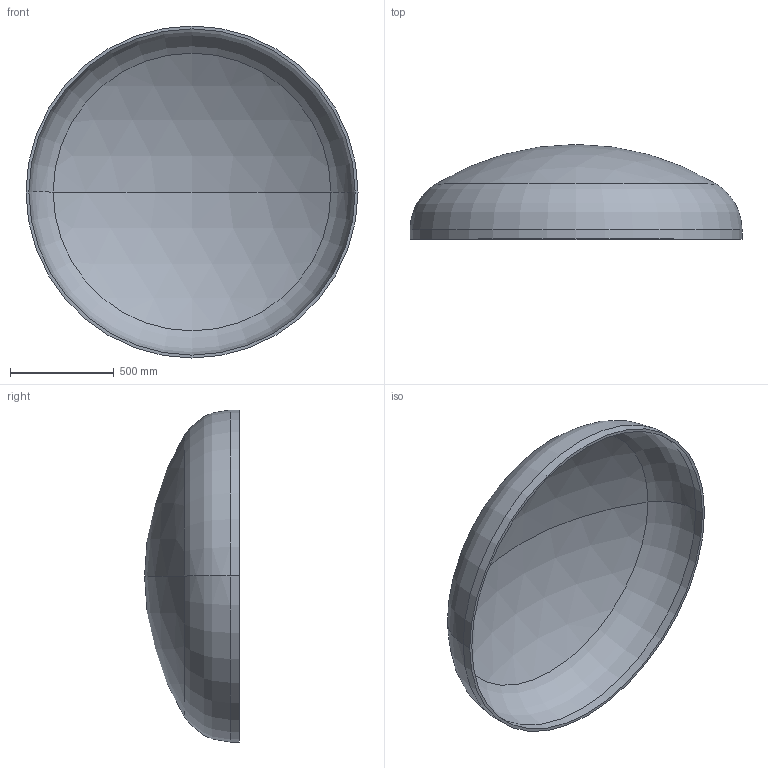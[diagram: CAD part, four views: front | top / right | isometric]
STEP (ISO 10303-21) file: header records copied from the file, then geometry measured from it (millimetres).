
FILE_DESCRIPTION (( 'STEP AP203' ), '1' );
FILE_NAME ('DIN 28013 Korbbogenform_-_Boden DIN 28013 - 1600 x 45 - I - s=14.step', '2016-07-01T11:05:57', ( '' ), ( '' ), 'SwSTEP 2.0', 'SolidWorks 2013', '' );
FILE_SCHEMA (( 'CONFIG_CONTROL_DESIGN' ));
Length unit declared in the file: millimetre
Products named in the file (1): DIN 28013 Korbbogenform_-_Boden DIN 28013 - 1600 x 45 - I - s=14
Bounding box: 1600 x 456.65 x 1600 mm (x, y, z)
Volume: 41633255.6 mm3; surface area: 6017772.1 mm2
Topology: 1 solids, 1 shells, 13 faces, 24 edges, 14 vertices
Faces by surface type: torus 4, cylinder 4, sphere 4, plane 1
Entity records: 407 total; most frequent: DIRECTION 72, CARTESIAN_POINT 52, ORIENTED_EDGE 48, AXIS2_PLACEMENT_3D 34, EDGE_CURVE 24, CIRCLE 20, EDGE_LOOP 14, VERTEX_POINT 14
